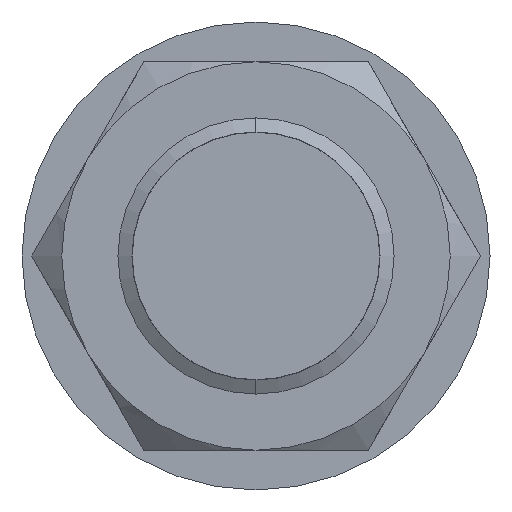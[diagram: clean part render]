
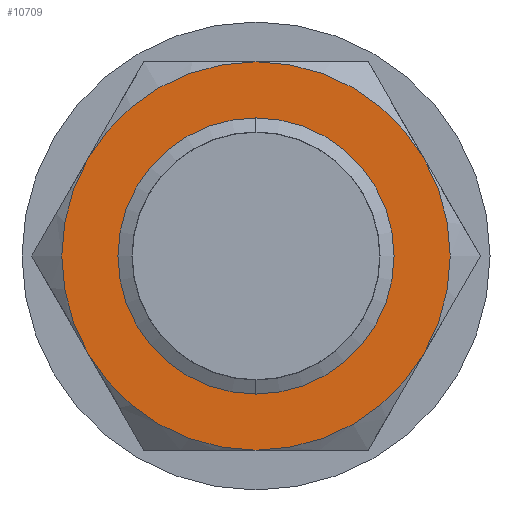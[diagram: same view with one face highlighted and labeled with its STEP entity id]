
A CAD part, left-side view. The second image highlights one B-rep face of the part: STEP entity #10709.
In plain terms, the highlighted planar face has unit normal (-1, 0, 0).
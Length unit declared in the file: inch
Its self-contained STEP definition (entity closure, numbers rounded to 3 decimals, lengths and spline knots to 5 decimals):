
#119 = EDGE_CURVE ( 'NONE', #10404, #13676, #12102, .T. ) ;
#1164 = CARTESIAN_POINT ( 'NONE',  ( 17.90369, 10.62715, 0.332 ) ) ;
#1594 = CIRCLE ( 'NONE', #1595, 0.332 ) ;
#1595 = AXIS2_PLACEMENT_3D ( 'NONE', #1596, #1597, #1598 ) ;
#1596 = CARTESIAN_POINT ( 'NONE',  ( 17.90369, 10.62715, 0. ) ) ;
#1597 = DIRECTION ( 'NONE',  ( 1., 0., 0. ) ) ;
#1598 = DIRECTION ( 'NONE',  ( 0., 0., -1. ) ) ;
#2701 = VERTEX_POINT ( 'NONE', #13552 ) ;
#2978 = EDGE_CURVE ( 'NONE', #6778, #10404, #13658, .T. ) ;
#3038 = CARTESIAN_POINT ( 'NONE',  ( 17.90369, 10.33963, -0.166 ) ) ;
#4081 = CIRCLE ( 'NONE', #4082, 0.332 ) ;
#4082 = AXIS2_PLACEMENT_3D ( 'NONE', #4083, #4084, #4085 ) ;
#4083 = CARTESIAN_POINT ( 'NONE',  ( 17.90369, 10.62715, 0. ) ) ;
#4084 = DIRECTION ( 'NONE',  ( 1., 0., 0. ) ) ;
#4085 = DIRECTION ( 'NONE',  ( 0., 0., -1. ) ) ;
#4195 = CARTESIAN_POINT ( 'NONE',  ( 17.90369, 10.33963, 0.166 ) ) ;
#4431 = EDGE_CURVE ( 'NONE', #11847, #11897, #14461, .T. ) ;
#4957 = FACE_BOUND ( 'NONE', #10652, .T. ) ;
#4958 = FACE_OUTER_BOUND ( 'NONE', #10327, .T. ) ;
#4959 = PLANE ( 'NONE',  #4960 ) ;
#4960 = AXIS2_PLACEMENT_3D ( 'NONE', #4961, #4969, #4970 ) ;
#4961 = CARTESIAN_POINT ( 'NONE',  ( 17.90369, 10.62715, 0. ) ) ;
#4969 = DIRECTION ( 'NONE',  ( 1., 0., 0. ) ) ;
#4970 = DIRECTION ( 'NONE',  ( 0., 0., -1. ) ) ;
#6625 = CARTESIAN_POINT ( 'NONE',  ( 17.90369, 10.62715, -0.332 ) ) ;
#6778 = VERTEX_POINT ( 'NONE', #1164 ) ;
#6827 = CIRCLE ( 'NONE', #6828, 0.332 ) ;
#6828 = AXIS2_PLACEMENT_3D ( 'NONE', #6829, #6830, #6831 ) ;
#6829 = CARTESIAN_POINT ( 'NONE',  ( 17.90369, 10.62715, 0. ) ) ;
#6830 = DIRECTION ( 'NONE',  ( 1., 0., 0. ) ) ;
#6831 = DIRECTION ( 'NONE',  ( 0., 0., -1. ) ) ;
#7630 = CARTESIAN_POINT ( 'NONE',  ( 17.90369, 10.39615, 0. ) ) ;
#7646 = EDGE_CURVE ( 'NONE', #13676, #11419, #1594, .T. ) ;
#7711 = CARTESIAN_POINT ( 'NONE',  ( 17.90369, 10.85815, 0. ) ) ;
#7813 = CIRCLE ( 'NONE', #7814, 0.231 ) ;
#7814 = AXIS2_PLACEMENT_3D ( 'NONE', #7815, #7816, #7817 ) ;
#7815 = CARTESIAN_POINT ( 'NONE',  ( 17.90369, 10.62715, 0. ) ) ;
#7816 = DIRECTION ( 'NONE',  ( -1., 0., 0. ) ) ;
#7817 = DIRECTION ( 'NONE',  ( 0., 1., 0. ) ) ;
#8162 = CIRCLE ( 'NONE', #8164, 0.332 ) ;
#8164 = AXIS2_PLACEMENT_3D ( 'NONE', #8165, #8166, #8167 ) ;
#8165 = CARTESIAN_POINT ( 'NONE',  ( 17.90369, 10.62715, 0. ) ) ;
#8166 = DIRECTION ( 'NONE',  ( 1., 0., 0. ) ) ;
#8167 = DIRECTION ( 'NONE',  ( 0., 0., -1. ) ) ;
#8295 = CARTESIAN_POINT ( 'NONE',  ( 17.90369, 10.91467, -0.166 ) ) ;
#9727 = ORIENTED_EDGE ( 'NONE', *, *, #2978, .F. ) ;
#10127 = ORIENTED_EDGE ( 'NONE', *, *, #119, .F. ) ;
#10327 = EDGE_LOOP ( 'NONE', ( #10127, #9727, #12920, #12346, #11985, #11856 ) ) ;
#10360 = EDGE_CURVE ( 'NONE', #11419, #12321, #4081, .T. ) ;
#10393 = ORIENTED_EDGE ( 'NONE', *, *, #4431, .F. ) ;
#10404 = VERTEX_POINT ( 'NONE', #4195 ) ;
#10519 = ORIENTED_EDGE ( 'NONE', *, *, #11959, .F. ) ;
#10652 = EDGE_LOOP ( 'NONE', ( #10519, #10393 ) ) ;
#10709 = ADVANCED_FACE ( 'NONE', ( #4957, #4958 ), #4959, .F. ) ;
#11419 = VERTEX_POINT ( 'NONE', #6625 ) ;
#11527 = EDGE_CURVE ( 'NONE', #2701, #6778, #6827, .T. ) ;
#11847 = VERTEX_POINT ( 'NONE', #7630 ) ;
#11856 = ORIENTED_EDGE ( 'NONE', *, *, #7646, .F. ) ;
#11897 = VERTEX_POINT ( 'NONE', #7711 ) ;
#11959 = EDGE_CURVE ( 'NONE', #11897, #11847, #7813, .T. ) ;
#11985 = ORIENTED_EDGE ( 'NONE', *, *, #10360, .F. ) ;
#12102 = CIRCLE ( 'NONE', #12103, 0.332 ) ;
#12103 = AXIS2_PLACEMENT_3D ( 'NONE', #12104, #12105, #12106 ) ;
#12104 = CARTESIAN_POINT ( 'NONE',  ( 17.90369, 10.62715, 0. ) ) ;
#12105 = DIRECTION ( 'NONE',  ( 1., 0., 0. ) ) ;
#12106 = DIRECTION ( 'NONE',  ( 0., 0., -1. ) ) ;
#12159 = EDGE_CURVE ( 'NONE', #12321, #2701, #8162, .T. ) ;
#12321 = VERTEX_POINT ( 'NONE', #8295 ) ;
#12346 = ORIENTED_EDGE ( 'NONE', *, *, #12159, .F. ) ;
#12920 = ORIENTED_EDGE ( 'NONE', *, *, #11527, .F. ) ;
#13552 = CARTESIAN_POINT ( 'NONE',  ( 17.90369, 10.91467, 0.166 ) ) ;
#13658 = CIRCLE ( 'NONE', #13659, 0.332 ) ;
#13659 = AXIS2_PLACEMENT_3D ( 'NONE', #13660, #13661, #13662 ) ;
#13660 = CARTESIAN_POINT ( 'NONE',  ( 17.90369, 10.62715, 0. ) ) ;
#13661 = DIRECTION ( 'NONE',  ( 1., 0., 0. ) ) ;
#13662 = DIRECTION ( 'NONE',  ( 0., 0., -1. ) ) ;
#13676 = VERTEX_POINT ( 'NONE', #3038 ) ;
#14461 = CIRCLE ( 'NONE', #14462, 0.231 ) ;
#14462 = AXIS2_PLACEMENT_3D ( 'NONE', #14463, #14464, #14465 ) ;
#14463 = CARTESIAN_POINT ( 'NONE',  ( 17.90369, 10.62715, 0. ) ) ;
#14464 = DIRECTION ( 'NONE',  ( -1., 0., 0. ) ) ;
#14465 = DIRECTION ( 'NONE',  ( 0., 1., 0. ) ) ;
